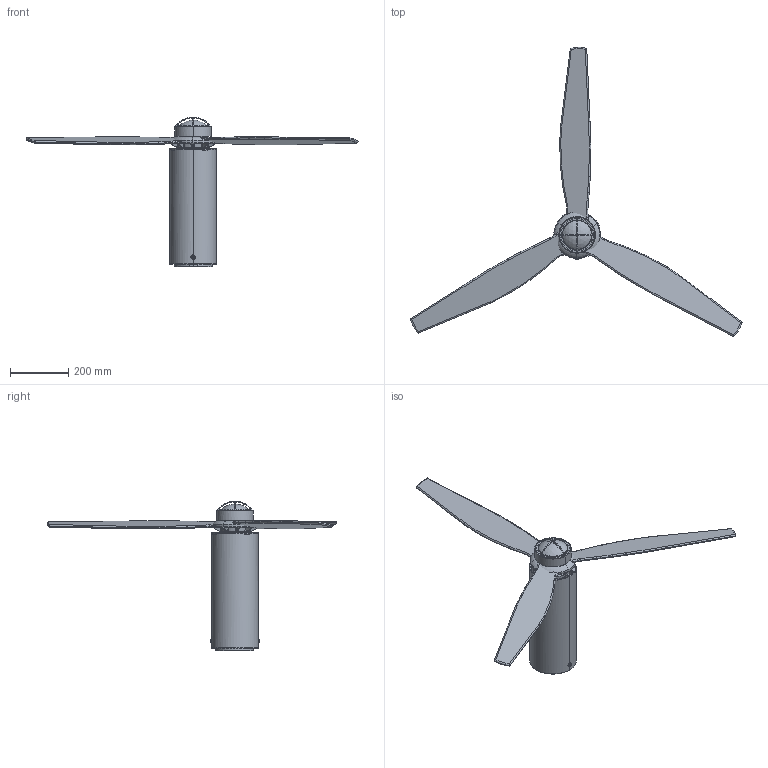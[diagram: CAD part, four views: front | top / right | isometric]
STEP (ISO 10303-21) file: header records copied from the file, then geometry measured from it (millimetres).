
FILE_DESCRIPTION(/* description */ (''),/* implementation_level */ '2;1');
FILE_NAME(/* name */ 'C:\Users\FrancoSartori\Documents\FARO\01_En Proceso\00_TUBEFAN LED\03_Publicación\TUBEFAN\32037-10.stp',/* time_stamp */ '2021-04-23T10:15:16+02:00',/* author */ ('FrancoSartori'),/* organization */ (''),/* preprocessor_version */ 'ST-DEVELOPER v18.1',/* originating_system */ 'AutoCAD Mechanical',/* authorisation */ '');
FILE_SCHEMA (('AUTOMOTIVE_DESIGN { 1 0 10303 214 3 1 1 }'));
Length unit declared in the file: millimetre
Products named in the file (3): Product; TUBEFAN_1280 - FAN-241058-Export; 33390_33391LigKIT - LT-241053-Export
Assembly tree (2 placements, depth 2):
  Product
    TUBEFAN_1280 - FAN-241058-Export
    33390_33391LigKIT - LT-241053-Export
Bounding box: 1139.85 x 993.04 x 513.81 mm (x, y, z)
Volume: 3525992.3 mm3; surface area: 1104646 mm2
Topology: 27 solids, 27 shells, 712 faces, 1764 edges, 1120 vertices
Faces by surface type: plane 233, cylinder 202, torus 166, bspline 68, cone 37, sphere 6
Entity records: 28536 total; most frequent: CARTESIAN_POINT 12911, ORIENTED_EDGE 3518, DIRECTION 2743, EDGE_CURVE 1759, VERTEX_POINT 1119, AXIS2_PLACEMENT_3D 1098, EDGE_LOOP 772, B_SPLINE_CURVE_WITH_KNOTS 739
